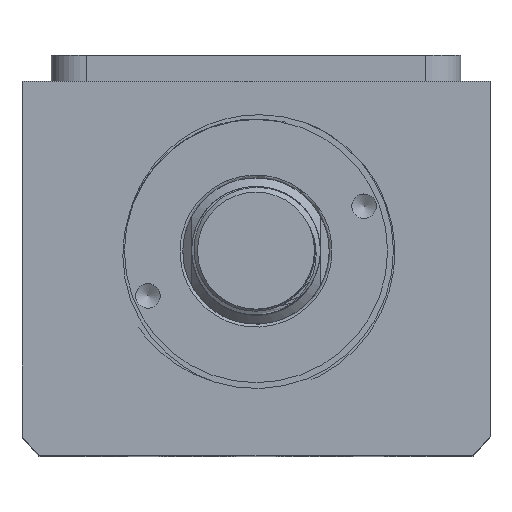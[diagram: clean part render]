
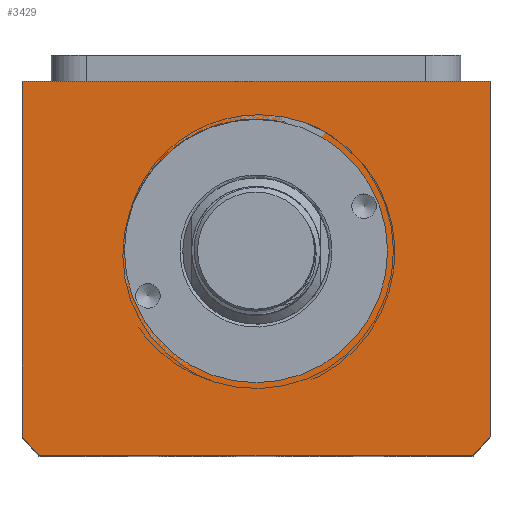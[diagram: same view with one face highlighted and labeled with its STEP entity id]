
A CAD part, top view. The second image highlights one B-rep face of the part: STEP entity #3429.
In plain terms, the highlighted planar face has unit normal (0, 0, 1).
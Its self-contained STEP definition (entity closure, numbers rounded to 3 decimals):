
#3429=ADVANCED_FACE('',(#4209,#4210),#3876,.T.);
#3876=PLANE('',#11515);
#4209=FACE_BOUND('',#4373,.T.);
#4210=FACE_BOUND('',#4374,.T.);
#4373=EDGE_LOOP('',(#6805));
#4374=EDGE_LOOP('',(#6806,#6807,#6808,#6809,#6810,#6811));
#4903=LINE('',#13827,#5770);
#4923=LINE('',#14044,#5790);
#4931=LINE('',#14065,#5798);
#4946=LINE('',#14097,#5813);
#5770=VECTOR('',#11945,1.);
#5790=VECTOR('',#12041,1.);
#5798=VECTOR('',#12055,1.);
#5813=VECTOR('',#12076,1.);
#6805=ORIENTED_EDGE('',*,*,#10164,.F.);
#6806=ORIENTED_EDGE('',*,*,#10187,.T.);
#6807=ORIENTED_EDGE('',*,*,#10202,.T.);
#6808=ORIENTED_EDGE('',*,*,#10177,.T.);
#6809=ORIENTED_EDGE('',*,*,#10203,.T.);
#6810=ORIENTED_EDGE('',*,*,#10130,.T.);
#6811=ORIENTED_EDGE('',*,*,#10204,.T.);
#9243=VERTEX_POINT('',#13826);
#9244=VERTEX_POINT('',#13828);
#9276=VERTEX_POINT('',#14017);
#9289=VERTEX_POINT('',#14043);
#9290=VERTEX_POINT('',#14045);
#9298=VERTEX_POINT('',#14063);
#9300=VERTEX_POINT('',#14066);
#10130=EDGE_CURVE('',#9244,#9243,#4903,.T.);
#10164=EDGE_CURVE('',#9276,#9276,#11397,.T.);
#10177=EDGE_CURVE('',#9290,#9289,#4923,.T.);
#10187=EDGE_CURVE('',#9300,#9298,#4931,.T.);
#10202=EDGE_CURVE('',#9298,#9290,#11403,.T.);
#10203=EDGE_CURVE('',#9289,#9244,#11404,.T.);
#10204=EDGE_CURVE('',#9243,#9300,#4946,.T.);
#11397=CIRCLE('',#11504,22.5);
#11403=CIRCLE('',#11513,51.);
#11404=CIRCLE('',#11514,51.);
#11504=AXIS2_PLACEMENT_3D('',#14016,#12022,#12023);
#11513=AXIS2_PLACEMENT_3D('',#14095,#12072,#12073);
#11514=AXIS2_PLACEMENT_3D('',#14096,#12074,#12075);
#11515=AXIS2_PLACEMENT_3D('',#14098,#12077,#12078);
#11945=DIRECTION('',(0.,1.,0.));
#12022=DIRECTION('',(0.,0.,1.));
#12023=DIRECTION('',(1.,0.,0.));
#12041=DIRECTION('',(1.,0.,0.));
#12055=DIRECTION('',(0.,-1.,0.));
#12072=DIRECTION('',(0.,0.,1.));
#12073=DIRECTION('',(1.,0.,0.));
#12074=DIRECTION('',(0.,0.,1.));
#12075=DIRECTION('',(1.,0.,0.));
#12076=DIRECTION('',(-1.,0.,0.));
#12077=DIRECTION('',(0.,0.,1.));
#12078=DIRECTION('',(-1.,0.,0.));
#13826=CARTESIAN_POINT('',(116.829,45.615,40.));
#13827=CARTESIAN_POINT('',(116.829,45.615,40.));
#13828=CARTESIAN_POINT('',(116.829,-15.023,40.));
#14016=CARTESIAN_POINT('',(76.829,16.615,40.));
#14017=CARTESIAN_POINT('',(99.329,16.615,40.));
#14043=CARTESIAN_POINT('',(113.924,-18.385,40.));
#14044=CARTESIAN_POINT('',(36.829,-18.385,40.));
#14045=CARTESIAN_POINT('',(39.735,-18.385,40.));
#14063=CARTESIAN_POINT('',(36.829,-15.023,40.));
#14065=CARTESIAN_POINT('',(36.829,45.615,40.));
#14066=CARTESIAN_POINT('',(36.829,45.615,40.));
#14095=CARTESIAN_POINT('',(76.829,16.615,40.));
#14096=CARTESIAN_POINT('',(76.829,16.615,40.));
#14097=CARTESIAN_POINT('',(36.829,45.615,40.));
#14098=CARTESIAN_POINT('',(76.829,13.615,40.));
